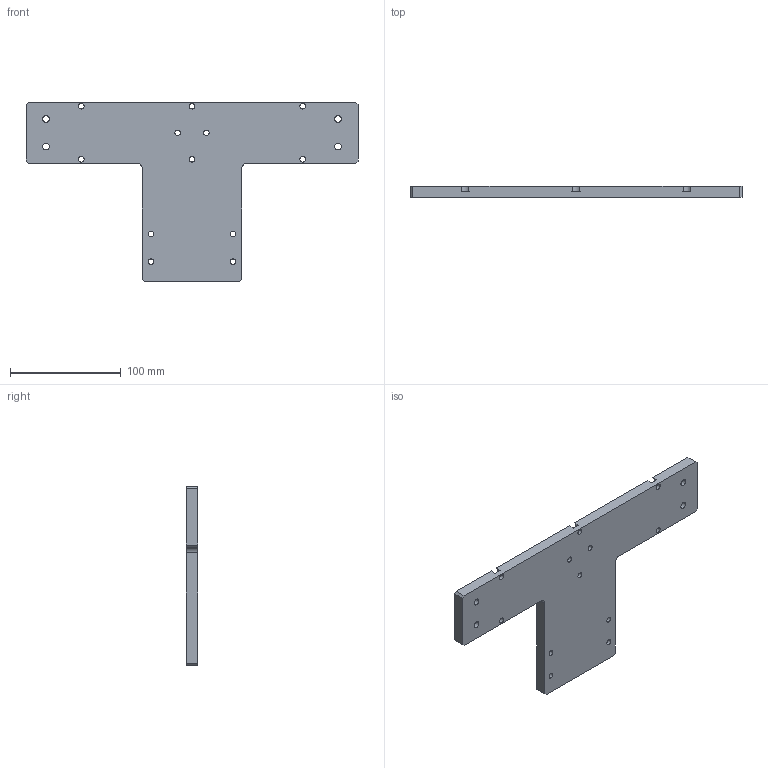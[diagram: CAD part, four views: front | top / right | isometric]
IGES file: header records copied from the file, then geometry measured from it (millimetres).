
Start section:  PTC IGES file: n60-n60l-ft.igs
Global section: file name: n60-n60l-ft.igs; native system: Pro/ENGINEER by Parametric Technology Corporation; preprocessor: 2008230; author: Owner; organization: Unknown; date: 20121212.114304; units: millimetre
Bounding box: 300 x 10 x 162 mm (x, y, z)
Surface area: 63931.3 mm2 (no closed solid volume)
Topology: 0 solids, 0 shells, 81 faces, 432 edges, 432 vertices
Faces by surface type: revolution 53, bspline 28
